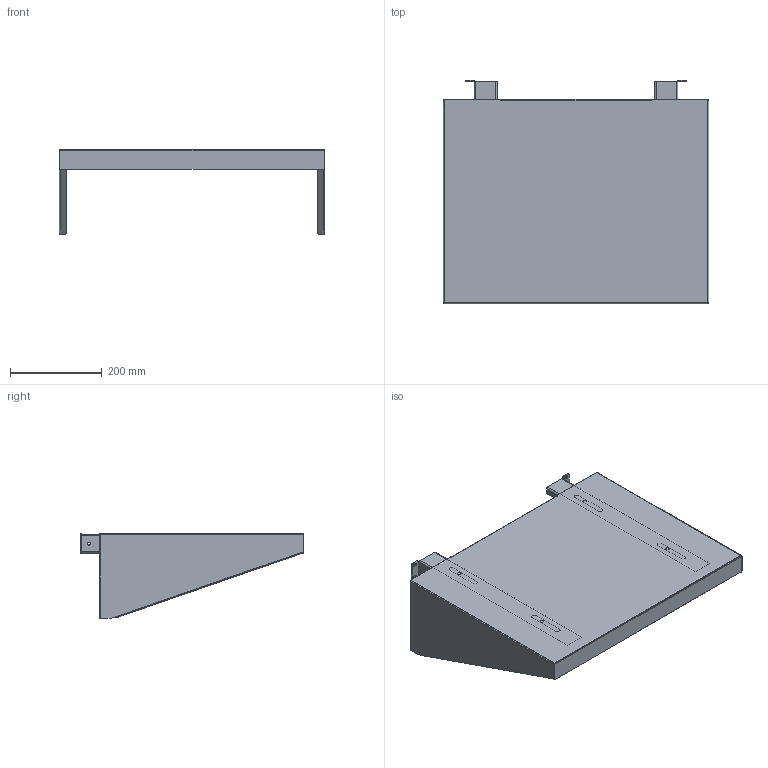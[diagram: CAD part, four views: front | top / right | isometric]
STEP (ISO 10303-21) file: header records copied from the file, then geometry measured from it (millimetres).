
FILE_DESCRIPTION(/* description */ ('Unknown'),/* implementation_level */ '2;1');
FILE_NAME(/* name */ 'RMD1923',/* time_stamp */ '2022-02-03T13:12:04-05:00',/* author */ ('Unknown'),/* organization */ ('Unknown'),/* preprocessor_version */ 'ST-DEVELOPER v18.1',/* originating_system */ 'Solid Edge',/* authorisation */ 'Unknown');
FILE_SCHEMA (('TECHNICAL_DATA_PACKAGING','MODEL_BASED_INTEGRATED_MANUFACTURING_SCHEMA','PROCESS_PLANNING_SCHEMA','AUTOMOTIVE_DESIGN {1 0 10303 214 3 1 1}'));
Length unit declared in the file: millimetre
Products named in the file (8): RMD1923; WAM30022; COM57559-17R; COM57558-23; STD26123; NTS16535; COM57559-17L
Assembly tree (16 placements, depth 3):
  RMD1923
    WAM30022  x4
    COM57559-17R
    COM57558-23
      STD26123  x4
      COM57558-23
    NTS16535  x4
    COM57559-17L
Bounding box: 577.85 x 486.56 x 184.15 mm (x, y, z)
Volume: 834855.4 mm3; surface area: 1028888.8 mm2
Topology: 15 solids, 15 shells, 324 faces, 798 edges, 516 vertices
Faces by surface type: plane 198, cylinder 106, bspline 12, cone 8
Full cylindrical faces by diameter (mm): 4.976 x4, 6.35 x12, 7.874 x4, 7.938 x4, 21.234 x4, 22.225 x4
Entity records: 7996 total; most frequent: CARTESIAN_POINT 1918, DIRECTION 1214, ORIENTED_EDGE 1184, EDGE_CURVE 592, AXIS2_PLACEMENT_3D 412, LINE 390, VECTOR 390, VERTEX_POINT 386
